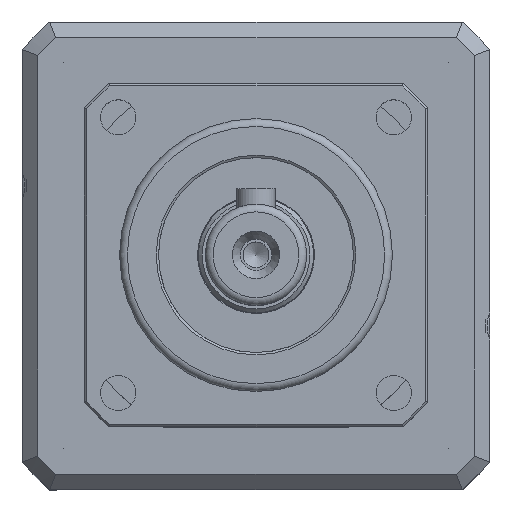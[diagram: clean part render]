
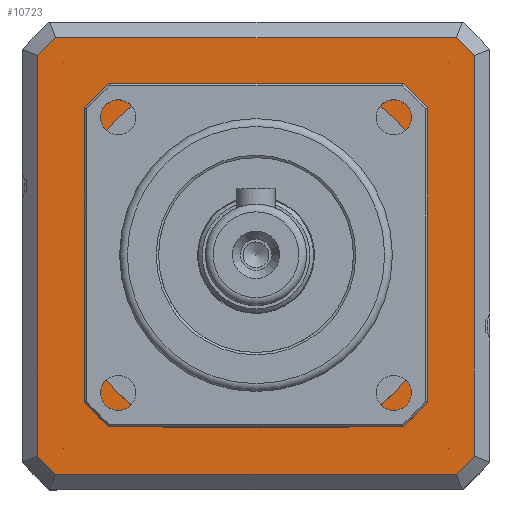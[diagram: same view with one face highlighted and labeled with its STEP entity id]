
A CAD part, top view. The second image highlights one B-rep face of the part: STEP entity #10723.
In plain terms, the highlighted planar face has unit normal (0, 0, 1).
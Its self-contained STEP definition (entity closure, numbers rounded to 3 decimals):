
#10578=CARTESIAN_POINT('',(-30.,-30.,-53.5));
#10579=DIRECTION('',(0.0,0.0,1.0));
#10580=DIRECTION('',(1.0,0.0,0.0));
#10581=AXIS2_PLACEMENT_3D('',#10578,#10579,#10580);
#10582=PLANE('',#10581);
#10583=CARTESIAN_POINT('',(25.69,28.,-53.5));
#10584=VERTEX_POINT('',#10583);
#10585=CARTESIAN_POINT('',(-25.69,28.,-53.5));
#10586=VERTEX_POINT('',#10585);
#10587=CARTESIAN_POINT('',(25.69,28.,-53.5));
#10588=DIRECTION('',(-1.0,0.0,0.0));
#10589=VECTOR('',#10588,51.381);
#10590=LINE('',#10587,#10589);
#10591=EDGE_CURVE('',#10584,#10586,#10590,.T.);
#10592=ORIENTED_EDGE('',*,*,#10591,.T.);
#10593=CARTESIAN_POINT('',(-28.,25.69,-53.5));
#10594=VERTEX_POINT('',#10593);
#10595=CARTESIAN_POINT('',(0.,0.,-53.5));
#10596=DIRECTION('',(0.0,0.0,1.0));
#10597=DIRECTION('',(1.0,0.0,0.0));
#10598=AXIS2_PLACEMENT_3D('',#10595,#10596,#10597);
#10599=CIRCLE('',#10598,38.);
#10600=EDGE_CURVE('',#10586,#10594,#10599,.T.);
#10601=ORIENTED_EDGE('',*,*,#10600,.T.);
#10602=CARTESIAN_POINT('',(-28.,-25.69,-53.5));
#10603=VERTEX_POINT('',#10602);
#10604=CARTESIAN_POINT('',(-28.,25.69,-53.5));
#10605=DIRECTION('',(0.0,-1.0,0.0));
#10606=VECTOR('',#10605,51.381);
#10607=LINE('',#10604,#10606);
#10608=EDGE_CURVE('',#10594,#10603,#10607,.T.);
#10609=ORIENTED_EDGE('',*,*,#10608,.T.);
#10610=CARTESIAN_POINT('',(-25.69,-28.,-53.5));
#10611=VERTEX_POINT('',#10610);
#10612=CARTESIAN_POINT('',(0.,0.,-53.5));
#10613=DIRECTION('',(0.0,0.0,1.0));
#10614=DIRECTION('',(1.0,0.0,0.0));
#10615=AXIS2_PLACEMENT_3D('',#10612,#10613,#10614);
#10616=CIRCLE('',#10615,38.);
#10617=EDGE_CURVE('',#10603,#10611,#10616,.T.);
#10618=ORIENTED_EDGE('',*,*,#10617,.T.);
#10619=CARTESIAN_POINT('',(25.69,-28.,-53.5));
#10620=VERTEX_POINT('',#10619);
#10621=CARTESIAN_POINT('',(-25.69,-28.,-53.5));
#10622=DIRECTION('',(1.0,0.0,0.0));
#10623=VECTOR('',#10622,51.381);
#10624=LINE('',#10621,#10623);
#10625=EDGE_CURVE('',#10611,#10620,#10624,.T.);
#10626=ORIENTED_EDGE('',*,*,#10625,.T.);
#10627=CARTESIAN_POINT('',(28.,-25.69,-53.5));
#10628=VERTEX_POINT('',#10627);
#10629=CARTESIAN_POINT('',(0.,0.,-53.5));
#10630=DIRECTION('',(0.0,0.0,1.0));
#10631=DIRECTION('',(1.0,0.0,0.0));
#10632=AXIS2_PLACEMENT_3D('',#10629,#10630,#10631);
#10633=CIRCLE('',#10632,38.);
#10634=EDGE_CURVE('',#10620,#10628,#10633,.T.);
#10635=ORIENTED_EDGE('',*,*,#10634,.T.);
#10636=CARTESIAN_POINT('',(28.,25.69,-53.5));
#10637=VERTEX_POINT('',#10636);
#10638=CARTESIAN_POINT('',(28.,-25.69,-53.5));
#10639=DIRECTION('',(0.0,1.0,0.0));
#10640=VECTOR('',#10639,51.381);
#10641=LINE('',#10638,#10640);
#10642=EDGE_CURVE('',#10628,#10637,#10641,.T.);
#10643=ORIENTED_EDGE('',*,*,#10642,.T.);
#10644=CARTESIAN_POINT('',(0.,0.,-53.5));
#10645=DIRECTION('',(0.0,0.0,1.0));
#10646=DIRECTION('',(1.0,0.0,0.0));
#10647=AXIS2_PLACEMENT_3D('',#10644,#10645,#10646);
#10648=CIRCLE('',#10647,38.);
#10649=EDGE_CURVE('',#10637,#10584,#10648,.T.);
#10650=ORIENTED_EDGE('',*,*,#10649,.T.);
#10651=EDGE_LOOP('',(#10592,#10601,#10609,#10618,#10626,#10635,#10643,#10650));
#10652=FACE_OUTER_BOUND('',#10651,.T.);
#10653=CARTESIAN_POINT('',(-22.,11.874,-53.5));
#10654=VERTEX_POINT('',#10653);
#10655=CARTESIAN_POINT('',(-22.,-11.874,-53.5));
#10656=VERTEX_POINT('',#10655);
#10657=CARTESIAN_POINT('',(-22.,11.874,-53.5));
#10658=DIRECTION('',(0.0,-1.0,0.0));
#10659=VECTOR('',#10658,23.749);
#10660=LINE('',#10657,#10659);
#10661=EDGE_CURVE('',#10654,#10656,#10660,.T.);
#10662=ORIENTED_EDGE('',*,*,#10661,.F.);
#10663=CARTESIAN_POINT('',(-11.874,22.,-53.5));
#10664=VERTEX_POINT('',#10663);
#10665=CARTESIAN_POINT('',(0.,0.,-53.5));
#10666=DIRECTION('',(0.0,0.0,1.0));
#10667=DIRECTION('',(1.0,0.0,0.0));
#10668=AXIS2_PLACEMENT_3D('',#10665,#10666,#10667);
#10669=CIRCLE('',#10668,25.);
#10670=EDGE_CURVE('',#10664,#10654,#10669,.T.);
#10671=ORIENTED_EDGE('',*,*,#10670,.F.);
#10672=CARTESIAN_POINT('',(11.874,22.,-53.5));
#10673=VERTEX_POINT('',#10672);
#10674=CARTESIAN_POINT('',(11.874,22.,-53.5));
#10675=DIRECTION('',(-1.0,0.0,0.0));
#10676=VECTOR('',#10675,23.749);
#10677=LINE('',#10674,#10676);
#10678=EDGE_CURVE('',#10673,#10664,#10677,.T.);
#10679=ORIENTED_EDGE('',*,*,#10678,.F.);
#10680=CARTESIAN_POINT('',(22.,11.874,-53.5));
#10681=VERTEX_POINT('',#10680);
#10682=CARTESIAN_POINT('',(0.,0.,-53.5));
#10683=DIRECTION('',(0.0,0.0,1.0));
#10684=DIRECTION('',(1.0,0.0,0.0));
#10685=AXIS2_PLACEMENT_3D('',#10682,#10683,#10684);
#10686=CIRCLE('',#10685,25.);
#10687=EDGE_CURVE('',#10681,#10673,#10686,.T.);
#10688=ORIENTED_EDGE('',*,*,#10687,.F.);
#10689=CARTESIAN_POINT('',(22.,-11.874,-53.5));
#10690=VERTEX_POINT('',#10689);
#10691=CARTESIAN_POINT('',(22.,-11.874,-53.5));
#10692=DIRECTION('',(0.0,1.0,0.0));
#10693=VECTOR('',#10692,23.749);
#10694=LINE('',#10691,#10693);
#10695=EDGE_CURVE('',#10690,#10681,#10694,.T.);
#10696=ORIENTED_EDGE('',*,*,#10695,.F.);
#10697=CARTESIAN_POINT('',(11.874,-22.,-53.5));
#10698=VERTEX_POINT('',#10697);
#10699=CARTESIAN_POINT('',(0.,0.,-53.5));
#10700=DIRECTION('',(0.0,0.0,1.0));
#10701=DIRECTION('',(1.0,0.0,0.0));
#10702=AXIS2_PLACEMENT_3D('',#10699,#10700,#10701);
#10703=CIRCLE('',#10702,25.);
#10704=EDGE_CURVE('',#10698,#10690,#10703,.T.);
#10705=ORIENTED_EDGE('',*,*,#10704,.F.);
#10706=CARTESIAN_POINT('',(-11.874,-22.,-53.5));
#10707=VERTEX_POINT('',#10706);
#10708=CARTESIAN_POINT('',(-11.874,-22.,-53.5));
#10709=DIRECTION('',(1.0,0.0,0.0));
#10710=VECTOR('',#10709,23.749);
#10711=LINE('',#10708,#10710);
#10712=EDGE_CURVE('',#10707,#10698,#10711,.T.);
#10713=ORIENTED_EDGE('',*,*,#10712,.F.);
#10714=CARTESIAN_POINT('',(0.,0.,-53.5));
#10715=DIRECTION('',(0.0,0.0,1.0));
#10716=DIRECTION('',(1.0,0.0,0.0));
#10717=AXIS2_PLACEMENT_3D('',#10714,#10715,#10716);
#10718=CIRCLE('',#10717,25.);
#10719=EDGE_CURVE('',#10656,#10707,#10718,.T.);
#10720=ORIENTED_EDGE('',*,*,#10719,.F.);
#10721=EDGE_LOOP('',(#10662,#10671,#10679,#10688,#10696,#10705,#10713,#10720));
#10722=FACE_BOUND('',#10721,.T.);
#10723=ADVANCED_FACE('',(#10652,#10722),#10582,.T.);
